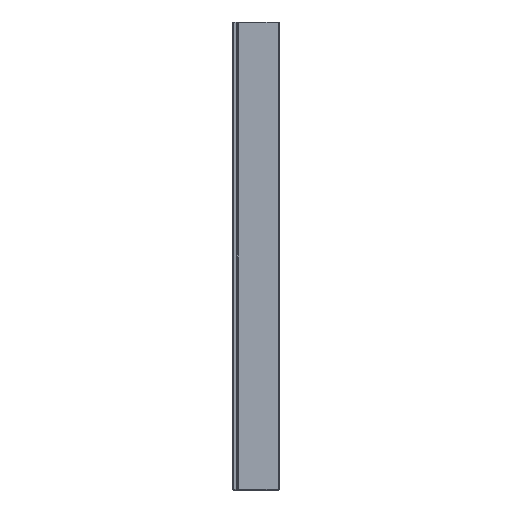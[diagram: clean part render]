
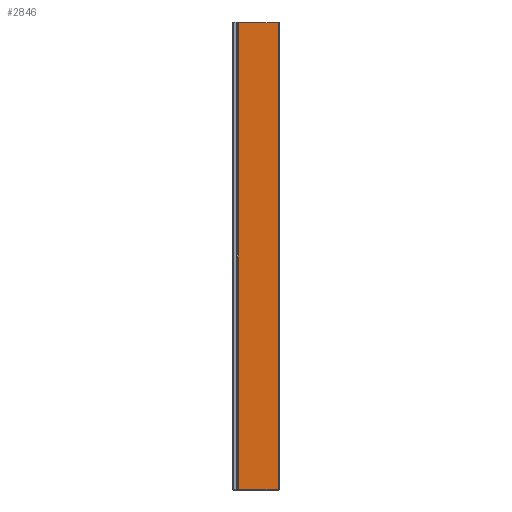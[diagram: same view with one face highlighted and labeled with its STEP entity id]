
A CAD part, left-side view. The second image highlights one B-rep face of the part: STEP entity #2846.
In plain terms, the highlighted planar face has unit normal (-1, 0, 0).
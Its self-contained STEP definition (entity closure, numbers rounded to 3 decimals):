
#71 = CARTESIAN_POINT ( 'NONE',  ( -5.501, -3.906, -100. ) ) ;
#241 = VECTOR ( 'NONE', #1052, 1000. ) ;
#249 = VECTOR ( 'NONE', #1737, 1000. ) ;
#260 = VERTEX_POINT ( 'NONE', #2196 ) ;
#311 = DIRECTION ( 'NONE',  ( -1., 0., 0. ) ) ;
#488 = EDGE_CURVE ( 'NONE', #260, #2062, #1828, .T. ) ;
#500 = EDGE_LOOP ( 'NONE', ( #1121, #2655, #1684, #2571 ) ) ;
#558 = EDGE_CURVE ( 'NONE', #2343, #925, #2920, .T. ) ;
#747 = DIRECTION ( 'NONE',  ( 0., 1., 0. ) ) ;
#776 = DIRECTION ( 'NONE',  ( 0., 0., 1. ) ) ;
#824 = LINE ( 'NONE', #2572, #241 ) ;
#842 = AXIS2_PLACEMENT_3D ( 'NONE', #71, #311, #2070 ) ;
#925 = VERTEX_POINT ( 'NONE', #2509 ) ;
#981 = EDGE_CURVE ( 'NONE', #925, #260, #3078, .T. ) ;
#1007 = CARTESIAN_POINT ( 'NONE',  ( -5.501, -3.656, -100. ) ) ;
#1052 = DIRECTION ( 'NONE',  ( 0., 0., -1. ) ) ;
#1093 = CARTESIAN_POINT ( 'NONE',  ( -5.501, 4.844, -0.2 ) ) ;
#1121 = ORIENTED_EDGE ( 'NONE', *, *, #2854, .T. ) ;
#1236 = CARTESIAN_POINT ( 'NONE',  ( -5.501, -3.906, -99.8 ) ) ;
#1488 = FACE_OUTER_BOUND ( 'NONE', #500, .T. ) ;
#1684 = ORIENTED_EDGE ( 'NONE', *, *, #981, .T. ) ;
#1737 = DIRECTION ( 'NONE',  ( 0., -1., 0. ) ) ;
#1828 = LINE ( 'NONE', #1999, #2412 ) ;
#1999 = CARTESIAN_POINT ( 'NONE',  ( -5.501, 4.844, -0.2 ) ) ;
#2062 = VERTEX_POINT ( 'NONE', #1093 ) ;
#2070 = DIRECTION ( 'NONE',  ( 0., -1., 0. ) ) ;
#2196 = CARTESIAN_POINT ( 'NONE',  ( -5.501, -3.656, -0.2 ) ) ;
#2329 = VECTOR ( 'NONE', #776, 1000. ) ;
#2343 = VERTEX_POINT ( 'NONE', #3210 ) ;
#2412 = VECTOR ( 'NONE', #747, 1000. ) ;
#2509 = CARTESIAN_POINT ( 'NONE',  ( -5.501, -3.656, -99.8 ) ) ;
#2571 = ORIENTED_EDGE ( 'NONE', *, *, #488, .T. ) ;
#2572 = CARTESIAN_POINT ( 'NONE',  ( -5.501, 4.844, -100. ) ) ;
#2655 = ORIENTED_EDGE ( 'NONE', *, *, #558, .T. ) ;
#2846 = ADVANCED_FACE ( 'NONE', ( #1488 ), #3064, .T. ) ;
#2854 = EDGE_CURVE ( 'NONE', #2062, #2343, #824, .T. ) ;
#2920 = LINE ( 'NONE', #1236, #249 ) ;
#3064 = PLANE ( 'NONE',  #842 ) ;
#3078 = LINE ( 'NONE', #1007, #2329 ) ;
#3210 = CARTESIAN_POINT ( 'NONE',  ( -5.501, 4.844, -99.8 ) ) ;
